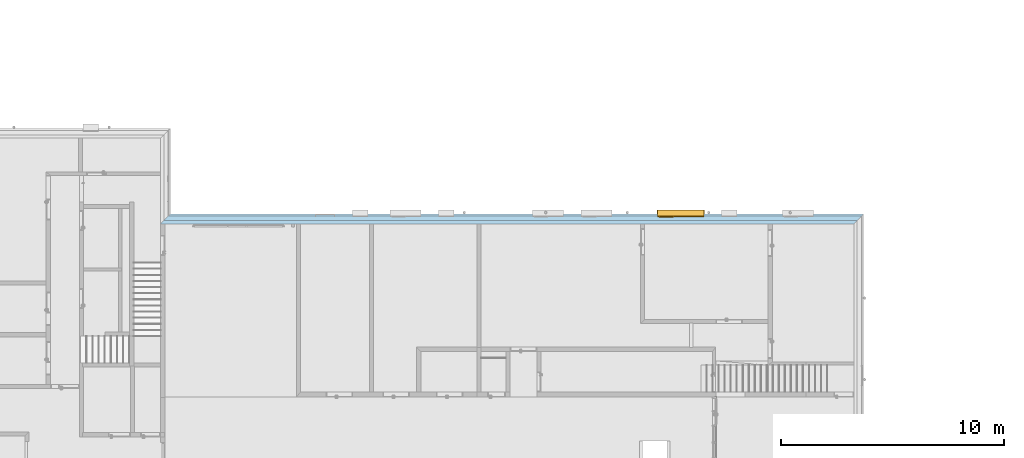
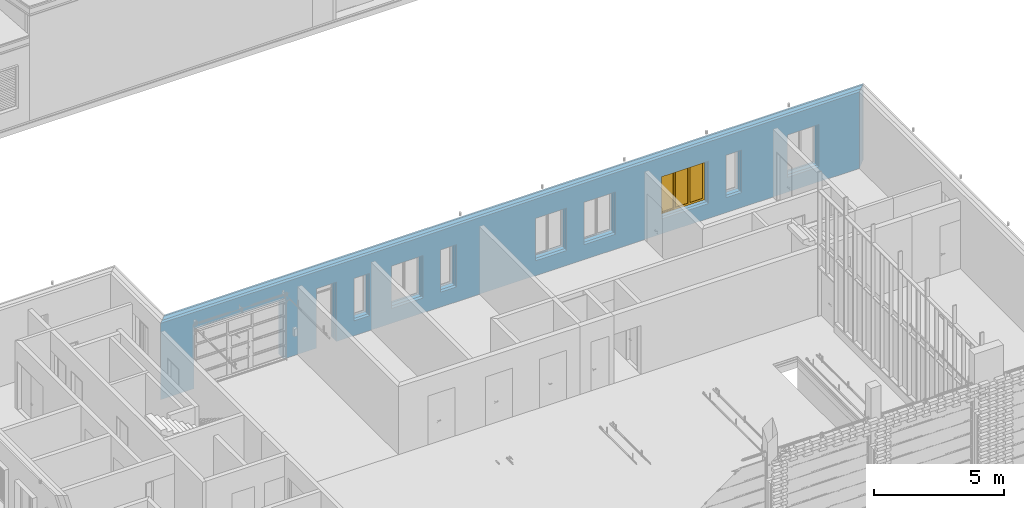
# One storey, part 19 of 62: 1 window, 10 openings, 1 element without a shape of its own, plus 3 elements that do not belong to this part.
"""IFC2X3 building model written with IfcOpenShell, lengths in millimetres."""

from ifc_helpers import new_model, entity, si_unit, converted_unit, derived_unit, money_unit, direction, frame, origin_with_axes, origin_2d_with_axis, place, context, subcontext, project, spatial, polyline, rectangle, outline, extrude, open_shell, faceted_brep, surface_model, source, transform, mapped, material, type_object, element, fill, aggregate, save


model = new_model("IFC2X3")

# Units and contexts
model_context = context("Model", 3, precision=0.01, world=origin_with_axes(), true_north=direction((0.0, 1.0)))
body_context = subcontext(model_context, "Body", "Model", "MODEL_VIEW")
ifc_project = project(units=[si_unit("LENGTHUNIT", "METRE", prefix="MILLI"), si_unit("AREAUNIT", "SQUARE_METRE"), si_unit("VOLUMEUNIT", "CUBIC_METRE"), converted_unit("PLANEANGLEUNIT", "DEGREE", entity("IfcPlaneAngleMeasure", 0.0174532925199), si_unit("PLANEANGLEUNIT", "RADIAN"), dimensions=[0, 0, 0, 0, 0, 0, 0]), si_unit("SOLIDANGLEUNIT", "STERADIAN"), money_unit("EUR"), converted_unit("TIMEUNIT", "Year", entity("IfcTimeMeasure", 31556926.0), si_unit("TIMEUNIT", "SECOND"), dimensions=[0, 0, 1, 0, 0, 0, 0]), si_unit("MASSUNIT", "GRAM", prefix="KILO"), si_unit("THERMODYNAMICTEMPERATUREUNIT", "DEGREE_CELSIUS"), si_unit("LUMINOUSINTENSITYUNIT", "LUMEN"), si_unit("ENERGYUNIT", "JOULE", prefix="MEGA"), derived_unit("THERMALCONDUCTANCEUNIT", [(si_unit("POWERUNIT", "WATT"), 1), (si_unit("LENGTHUNIT", "METRE"), -1), (si_unit("THERMODYNAMICTEMPERATUREUNIT", "KELVIN"), -1)]), derived_unit("SPECIFICHEATCAPACITYUNIT", [(si_unit("ENERGYUNIT", "JOULE"), 1), (si_unit("MASSUNIT", "GRAM", prefix="KILO"), -1), (si_unit("THERMODYNAMICTEMPERATUREUNIT", "KELVIN"), -1)]), derived_unit("MASSDENSITYUNIT", [(si_unit("MASSUNIT", "GRAM", prefix="KILO"), 1), (si_unit("VOLUMEUNIT", "CUBIC_METRE"), -1)])], contexts=[model_context])

# Site, building, storey
site_placement = place(None, origin_with_axes())
site = spatial("IfcSite", under=ifc_project, at=site_placement, Name="KIRDE 14, ELVA", CompositionType="ELEMENT")
building_placement = place(site_placement, origin_with_axes())
building = spatial("IfcBuilding", under=site, at=building_placement, Name="PPA ja Päästeameti ühishoone", CompositionType="ELEMENT")
storey_placement = place(building_placement, origin_with_axes())
storey = spatial("IfcBuildingStorey", under=building, at=storey_placement, Name="Esimene korrus", CompositionType="ELEMENT", Elevation=0.0)

# Window
window_style = type_object("IfcWindowStyle", Name="Triple Window 24", ConstructionType="NOTDEFINED", OperationType="TRIPLE_PANEL_VERTICAL", ParameterTakesPrecedence=False, Sizeable=False)
shared_shape = source(origin_with_axes(), body_context, "Body", "SurfaceModel", [
    faceted_brep([(1050.0, -50.0, 0.0), (1050.0, -130.0, 0.0), (-1050.0, -130.0, 0.0), (-1050.0, -50.0, 0.0), (1050.0, -50.0, 2000.0), (1050.0, -130.0, 2000.0), (-1050.0, -130.0, 2000.0), (1045.0, -130.0, 5.0), (-1045.0, -130.0, 5.0), (-1045.0, -130.0, 1995.0), (1045.0, -130.0, 1995.0), (-1050.0, -50.0, 2000.0), (1045.0, -50.0, 5.0), (1045.0, -50.0, 1995.0), (-1045.0, -50.0, 1995.0), (-1045.0, -50.0, 5.0)], [[[0, 1, 2, 3]], [[4, 5, 1, 0]], [[1, 5, 6, 2], [7, 8, 9, 10]], [[3, 2, 6, 11]], [[0, 3, 11, 4], [12, 13, 14, 15]], [[11, 6, 5, 4]], [[15, 8, 7, 12]], [[14, 9, 8, 15]], [[13, 10, 9, 14]], [[12, 7, 10, 13]]]),
    faceted_brep([(1070.0, -330.0, -20.0), (1045.0, -330.0, 5.0), (1045.0, -130.0, 5.0), (1070.0, -130.0, -20.0), (1070.0, -330.0, 2020.0), (1045.0, -330.0, 1995.0), (1045.0, -130.0, 1995.0), (1070.0, -130.0, 2020.0)], [[[0, 1, 2, 3]], [[0, 4, 5, 1]], [[1, 5, 6, 2]], [[3, 2, 6, 7]], [[4, 0, 3, 7]], [[5, 4, 7, 6]]]),
    faceted_brep([(-1070.0, -330.0, 2020.0), (-1045.0, -330.0, 1995.0), (-1045.0, -130.0, 1995.0), (-1070.0, -130.0, 2020.0), (-1070.0, -330.0, -20.0), (-1045.0, -330.0, 5.0), (-1045.0, -130.0, 5.0), (-1070.0, -130.0, -20.0)], [[[0, 1, 2, 3]], [[0, 4, 5, 1]], [[1, 5, 6, 2]], [[3, 2, 6, 7]], [[4, 0, 3, 7]], [[5, 4, 7, 6]]]),
    faceted_brep([(-1070.0, -330.0, -20.0), (-1045.0, -330.0, 5.0), (-1045.0, -130.0, 5.0), (-1070.0, -130.0, -20.0), (1070.0, -330.0, -20.0), (1045.0, -330.0, 5.0), (1045.0, -130.0, 5.0), (1070.0, -130.0, -20.0)], [[[0, 1, 2, 3]], [[0, 4, 5, 1]], [[1, 5, 6, 2]], [[3, 2, 6, 7]], [[4, 0, 3, 7]], [[5, 4, 7, 6]]]),
    faceted_brep([(1070.0, -330.0, 2020.0), (1045.0, -330.0, 1995.0), (1045.0, -130.0, 1995.0), (1070.0, -130.0, 2020.0), (-1070.0, -330.0, 2020.0), (-1045.0, -330.0, 1995.0), (-1045.0, -130.0, 1995.0), (-1070.0, -130.0, 2020.0)], [[[0, 1, 2, 3]], [[0, 4, 5, 1]], [[1, 5, 6, 2]], [[3, 2, 6, 7]], [[4, 0, 3, 7]], [[5, 4, 7, 6]]]),
    faceted_brep([(985.0, 0.0, 1910.0), (985.0, -25.0, 1910.0), (960.0, -25.0, 1910.0), (960.0, -50.0, 1910.0), (1050.0, -50.0, 1910.0), (1050.0, 0.0, 1910.0), (985.0, 0.0, 90.0), (985.0, -25.0, 90.0), (960.0, -25.0, 90.0), (960.0, -50.0, 90.0), (1050.0, -50.0, 90.0), (1050.0, 0.0, 90.0)], [[[0, 1, 2, 3, 4, 5]], [[1, 0, 6, 7]], [[8, 2, 1, 7]], [[2, 8, 9, 3]], [[4, 3, 9, 10]], [[5, 4, 10, 11]], [[6, 0, 5, 11]], [[7, 6, 11, 10, 9, 8]]]),
    faceted_brep([(346.666666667, -25.0, 1910.0), (321.666666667, -25.0, 1910.0), (321.666666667, 0.0, 1910.0), (256.666666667, 0.0, 1910.0), (256.666666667, -50.0, 1910.0), (346.666666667, -50.0, 1910.0), (346.666666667, -25.0, 90.0), (321.666666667, -25.0, 90.0), (321.666666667, 0.0, 90.0), (256.666666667, 0.0, 90.0), (256.666666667, -50.0, 90.0), (346.666666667, -50.0, 90.0)], [[[0, 1, 2, 3, 4, 5]], [[1, 0, 6, 7]], [[8, 2, 1, 7]], [[2, 8, 9, 3]], [[9, 10, 4, 3]], [[5, 4, 10, 11]], [[6, 0, 5, 11]], [[7, 6, 11, 10, 9, 8]]]),
    faceted_brep([(346.666666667, -25.0, 90.0), (321.666666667, -25.0, 90.0), (321.666666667, 0.0, 90.0), (256.666666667, 0.0, 90.0), (256.666666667, -50.0, 90.0), (346.666666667, -50.0, 90.0), (960.0, -25.0, 90.0), (985.0, -25.0, 90.0), (985.0, -25.0, 65.0), (321.666666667, -25.0, 65.0), (321.666666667, 0.0, 65.0), (985.0, 0.0, 65.0), (985.0, 0.0, 90.0), (1050.0, 0.0, 90.0), (1050.0, 0.0, 0.0), (-1050.0, 0.0, 0.0), (-1050.0, 0.0, 90.0), (-960.0, 0.0, 90.0), (-396.666666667, 0.0, 90.0), (-306.666666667, 0.0, 90.0), (-306.666666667, -50.0, 90.0), (1050.0, -50.0, 90.0), (960.0, -50.0, 90.0), (-396.666666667, -50.0, 90.0), (-960.0, -50.0, 90.0), (-1050.0, -50.0, 90.0), (-1050.0, -50.0, 0.0), (1050.0, -50.0, 0.0)], [[[0, 1, 2, 3, 4, 5]], [[1, 0, 6, 7, 8, 9]], [[10, 2, 1, 9]], [[11, 12, 13, 14, 15, 16, 17, 18, 19, 3, 2, 10]], [[19, 20, 4, 3]], [[21, 22, 5, 4, 20, 23, 24, 25, 26, 27]], [[6, 0, 5, 22]], [[7, 6, 22, 21, 13, 12]], [[7, 12, 11, 8]], [[11, 10, 9, 8]], [[13, 21, 27, 14]], [[14, 27, 26, 15]], [[15, 26, 25, 16]], [[16, 25, 24, 17]], [[17, 24, 23, 18]], [[18, 23, 20, 19]]]),
    faceted_brep([(985.0, 0.0, 1910.0), (985.0, 0.0, 1935.0), (321.666666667, 0.0, 1935.0), (321.666666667, 0.0, 1910.0), (256.666666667, 0.0, 1910.0), (-306.666666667, 0.0, 1910.0), (-396.666666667, 0.0, 1910.0), (-960.0, 0.0, 1910.0), (-1050.0, 0.0, 1910.0), (-1050.0, 0.0, 2000.0), (1050.0, 0.0, 2000.0), (1050.0, 0.0, 1910.0), (985.0, -25.0, 1910.0), (985.0, -25.0, 1935.0), (321.666666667, -25.0, 1935.0), (321.666666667, -25.0, 1910.0), (346.666666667, -25.0, 1910.0), (346.666666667, -50.0, 1910.0), (256.666666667, -50.0, 1910.0), (-306.666666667, -50.0, 1910.0), (-396.666666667, -50.0, 1910.0), (-960.0, -50.0, 1910.0), (-1050.0, -50.0, 1910.0), (-1050.0, -50.0, 2000.0), (1050.0, -50.0, 2000.0), (1050.0, -50.0, 1910.0), (960.0, -50.0, 1910.0), (960.0, -25.0, 1910.0)], [[[0, 1, 2, 3, 4, 5, 6, 7, 8, 9, 10, 11]], [[1, 0, 12, 13]], [[2, 1, 13, 14]], [[3, 2, 14, 15]], [[15, 16, 17, 18, 4, 3]], [[4, 18, 19, 5]], [[5, 19, 20, 6]], [[6, 20, 21, 7]], [[7, 21, 22, 8]], [[8, 22, 23, 9]], [[9, 23, 24, 10]], [[10, 24, 25, 11]], [[12, 0, 11, 25, 26, 27]], [[16, 15, 14, 13, 12, 27]], [[16, 27, 26, 17]], [[18, 17, 26, 25, 24, 23, 22, 21, 20, 19]]]),
    faceted_brep([(-960.0, -50.0, 90.0), (-1050.0, -50.0, 90.0), (-1050.0, 0.0, 90.0), (-960.0, 0.0, 90.0), (-960.0, -50.0, 1910.0), (-1050.0, -50.0, 1910.0), (-1050.0, 0.0, 1910.0), (-960.0, 0.0, 1910.0)], [[[0, 1, 2, 3]], [[0, 4, 5, 1]], [[1, 5, 6, 2]], [[3, 2, 6, 7]], [[4, 0, 3, 7]], [[5, 4, 7, 6]]]),
    faceted_brep([(-306.666666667, -50.0, 90.0), (-396.666666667, -50.0, 90.0), (-396.666666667, 0.0, 90.0), (-306.666666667, 0.0, 90.0), (-306.666666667, -50.0, 1910.0), (-396.666666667, -50.0, 1910.0), (-396.666666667, 0.0, 1910.0), (-306.666666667, 0.0, 1910.0)], [[[0, 1, 2, 3]], [[0, 4, 5, 1]], [[1, 5, 6, 2]], [[3, 2, 6, 7]], [[4, 0, 3, 7]], [[5, 4, 7, 6]]]),
    faceted_brep([(935.0, -25.0, 1885.0), (985.0, -25.0, 1885.0), (985.0, 25.0, 1885.0), (935.0, 25.0, 1885.0), (935.0, -25.0, 115.0), (985.0, -25.0, 115.0), (985.0, 25.0, 115.0), (935.0, 25.0, 115.0)], [[[0, 1, 2, 3]], [[0, 4, 5, 1]], [[1, 5, 6, 2]], [[3, 2, 6, 7]], [[4, 0, 3, 7]], [[5, 4, 7, 6]]]),
    faceted_brep([(371.666666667, -25.0, 115.0), (321.666666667, -25.0, 115.0), (321.666666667, 25.0, 115.0), (371.666666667, 25.0, 115.0), (371.666666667, -25.0, 1885.0), (321.666666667, -25.0, 1885.0), (321.666666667, 25.0, 1885.0), (371.666666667, 25.0, 1885.0)], [[[0, 1, 2, 3]], [[0, 4, 5, 1]], [[1, 5, 6, 2]], [[3, 2, 6, 7]], [[4, 0, 3, 7]], [[5, 4, 7, 6]]]),
    faceted_brep([(321.666666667, -25.0, 65.0), (321.666666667, -25.0, 115.0), (321.666666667, 25.0, 115.0), (321.666666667, 25.0, 65.0), (985.0, -25.0, 65.0), (985.0, -25.0, 115.0), (935.0, -25.0, 115.0), (371.666666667, -25.0, 115.0), (371.666666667, 25.0, 115.0), (935.0, 25.0, 115.0), (985.0, 25.0, 115.0), (985.0, 25.0, 65.0)], [[[0, 1, 2, 3]], [[0, 4, 5, 6, 7, 1]], [[1, 7, 8, 2]], [[3, 2, 8, 9, 10, 11]], [[4, 0, 3, 11]], [[5, 4, 11, 10]], [[6, 5, 10, 9]], [[7, 6, 9, 8]]]),
    faceted_brep([(985.0, -25.0, 1935.0), (985.0, -25.0, 1885.0), (985.0, 25.0, 1885.0), (985.0, 25.0, 1935.0), (321.666666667, -25.0, 1935.0), (321.666666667, -25.0, 1885.0), (371.666666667, -25.0, 1885.0), (935.0, -25.0, 1885.0), (935.0, 25.0, 1885.0), (371.666666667, 25.0, 1885.0), (321.666666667, 25.0, 1885.0), (321.666666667, 25.0, 1935.0)], [[[0, 1, 2, 3]], [[0, 4, 5, 6, 7, 1]], [[1, 7, 8, 2]], [[3, 2, 8, 9, 10, 11]], [[4, 0, 3, 11]], [[5, 4, 11, 10]], [[6, 5, 10, 9]], [[7, 6, 9, 8]]]),
    surface_model("IfcShellBasedSurfaceModel", [(935.0, -10.0, 115.0), (935.0, -10.0, 1885.0), (371.666666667, -10.0, 1885.0), (371.666666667, -10.0, 115.0)], [open_shell([[[0, 1, 2, 3]]])]),
    surface_model("IfcShellBasedSurfaceModel", [(935.0, 10.0, 115.0), (371.666666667, 10.0, 115.0), (371.666666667, 10.0, 1885.0), (935.0, 10.0, 1885.0)], [open_shell([[[0, 1, 2, 3]]])]),
    surface_model("IfcShellBasedSurfaceModel", [(256.666666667, -35.0, 90.0), (256.666666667, -35.0, 1910.0), (-306.666666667, -35.0, 1910.0), (-306.666666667, -35.0, 90.0)], [open_shell([[[0, 1, 2, 3]]])]),
    surface_model("IfcShellBasedSurfaceModel", [(256.666666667, -15.0, 90.0), (-306.666666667, -15.0, 90.0), (-306.666666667, -15.0, 1910.0), (256.666666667, -15.0, 1910.0)], [open_shell([[[0, 1, 2, 3]]])]),
    surface_model("IfcShellBasedSurfaceModel", [(-396.666666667, -35.0, 90.0), (-396.666666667, -35.0, 1910.0), (-960.0, -35.0, 1910.0), (-960.0, -35.0, 90.0)], [open_shell([[[0, 1, 2, 3]]])]),
    surface_model("IfcShellBasedSurfaceModel", [(-396.666666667, -15.0, 90.0), (-960.0, -15.0, 90.0), (-960.0, -15.0, 1910.0), (-396.666666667, -15.0, 1910.0)], [open_shell([[[0, 1, 2, 3]]])]),
])
wall_placement = place(storey_placement, frame((8900.00012331, 20749.5916292, 0.0), z_axis=(0.0, 0.0, 1.0), x_axis=(1.0, 3.88740030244e-10, 0.0)))
opening_2_placement = place(wall_placement, frame((23369.6518059, 0.0, 700.0), z_axis=(0.0, 0.0, 1.0), x_axis=(1.0, 0.0, 0.0)))
window_placement = place(opening_2_placement, frame((1050.0, 0.0, 0.0), z_axis=(0.0, 0.0, 1.0), x_axis=(-1.0, 0.0, 0.0)))
window = element("IfcWindow", 1, at=window_placement, inside=storey, type_object=window_style, Name="A-09", ObjectType="WINDOW", OverallHeight=2000.0, OverallWidth=2100.0, context=body_context, shape_type="MappedRepresentation", body=[
    mapped(shared_shape, transform((1049.99999988, -299.999990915, 0.0))),
])

# Wall, openings
wall_type = type_object("IfcWallType", Name="VS-01 430", PredefinedType="NOTDEFINED")
wall = element("IfcWall", 2, at=wall_placement, inside=storey, type_object=wall_type, Name="VS-01")
opening_1_placement = place(wall_placement, frame((17399.6518059, 0.0, 700.0), z_axis=(0.0, 0.0, 1.0), x_axis=(1.0, 0.0, 0.0)))
element("IfcOpeningElement", 3, at=opening_1_placement, cuts=wall, Name="A-05", context=body_context, shape_type="SweptSolid", body=[
    extrude(rectangle(XDim=1400.0, YDim=2000.0, at=origin_2d_with_axis()), frame((1.36058275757e-07, 349.999993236, 1000.0), z_axis=(-3.88740030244e-10, -1.0, 0.0), x_axis=(1.0, -3.88740152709e-10, 0.0)), (0.0, 0.0, 1.0), 780.0),
    extrude(rectangle(XDim=1400.0, YDim=2000.0, at=origin_2d_with_axis()), frame((1.36058275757e-07, 349.999993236, 1000.0), z_axis=(3.88740030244e-10, 1.0, 0.0), x_axis=(1.0, -3.88740152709e-10, 0.0)), (0.0, 0.0, 1.0), 510.0),
    extrude(rectangle(XDim=1400.0, YDim=2000.0, at=origin_2d_with_axis()), frame((1.67155178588e-07, 429.999993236, 1000.0), z_axis=(3.88740030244e-10, 1.0, 0.0), x_axis=(1.0, -3.88740152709e-10, 0.0)), (0.0, 0.0, 1.0), 510.0),
])
opening_2 = element("IfcOpeningElement", 4, at=opening_2_placement, cuts=wall, Name="A-09", context=body_context, shape_type="SweptSolid", body=[
    extrude(rectangle(XDim=2100.0, YDim=2000.0, at=origin_2d_with_axis()), frame((1.36061828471e-07, 349.999990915, 1000.0), z_axis=(-3.88740030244e-10, -1.0, 0.0), x_axis=(1.0, -3.88740152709e-10, 0.0)), (0.0, 0.0, 1.0), 780.0),
    extrude(rectangle(XDim=2100.0, YDim=2000.0, at=origin_2d_with_axis()), frame((1.36061828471e-07, 349.999990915, 1000.0), z_axis=(3.88740030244e-10, 1.0, 0.0), x_axis=(1.0, -3.88740152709e-10, 0.0)), (0.0, 0.0, 1.0), 510.0),
    extrude(rectangle(XDim=2140.0, YDim=2040.0, at=origin_2d_with_axis()), frame((1.67162284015e-07, 429.999990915, 1000.0), z_axis=(3.88740030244e-10, 1.0, 0.0), x_axis=(1.0, -3.88740152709e-10, 0.0)), (0.0, 0.0, 1.0), 510.0),
])

fill(opening_2, window)

# Opening
opening_3_placement = place(wall_placement, frame((28639.6518059, 0.0, 700.0), z_axis=(0.0, 0.0, 1.0), x_axis=(1.0, 0.0, 0.0)))
element("IfcOpeningElement", 5, at=opening_3_placement, cuts=wall, Name="A-05", context=body_context, shape_type="SweptSolid", body=[
    extrude(rectangle(XDim=1400.0, YDim=2000.0, at=origin_2d_with_axis()), frame((1.36061828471e-07, 349.999988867, 1000.0), z_axis=(-3.88740030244e-10, -1.0, 0.0), x_axis=(1.0, -3.88740152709e-10, 0.0)), (0.0, 0.0, 1.0), 780.0),
    extrude(rectangle(XDim=1400.0, YDim=2000.0, at=origin_2d_with_axis()), frame((1.36061828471e-07, 349.999988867, 1000.0), z_axis=(3.88740030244e-10, 1.0, 0.0), x_axis=(1.0, -3.88740152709e-10, 0.0)), (0.0, 0.0, 1.0), 510.0),
    extrude(rectangle(XDim=1400.0, YDim=2000.0, at=origin_2d_with_axis()), frame((1.67162284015e-07, 429.999988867, 1000.0), z_axis=(3.88740030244e-10, 1.0, 0.0), x_axis=(1.0, -3.88740152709e-10, 0.0)), (0.0, 0.0, 1.0), 510.0),
])

opening_4_placement = place(wall_placement, frame((19579.6518059, 0.0, 700.0), z_axis=(0.0, 0.0, 1.0), x_axis=(1.0, 0.0, 0.0)))
element("IfcOpeningElement", 6, at=opening_4_placement, cuts=wall, Name="A-05", context=body_context, shape_type="SweptSolid", body=[
    extrude(rectangle(XDim=1400.0, YDim=2000.0, at=origin_2d_with_axis()), frame((1.36058275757e-07, 349.999992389, 1000.0), z_axis=(-3.88740030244e-10, -1.0, 0.0), x_axis=(1.0, -3.88740152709e-10, 0.0)), (0.0, 0.0, 1.0), 780.0),
    extrude(rectangle(XDim=1400.0, YDim=2000.0, at=origin_2d_with_axis()), frame((1.36058275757e-07, 349.999992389, 1000.0), z_axis=(3.88740030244e-10, 1.0, 0.0), x_axis=(1.0, -3.88740152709e-10, 0.0)), (0.0, 0.0, 1.0), 510.0),
    extrude(rectangle(XDim=1400.0, YDim=2000.0, at=origin_2d_with_axis()), frame((1.67155178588e-07, 429.999992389, 1000.0), z_axis=(3.88740030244e-10, 1.0, 0.0), x_axis=(1.0, -3.88740152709e-10, 0.0)), (0.0, 0.0, 1.0), 510.0),
])

opening_5_placement = place(wall_placement, frame((25549.6518059, 0.0, 700.0), z_axis=(0.0, 0.0, 1.0), x_axis=(1.0, 0.0, 0.0)))
element("IfcOpeningElement", 7, at=opening_5_placement, cuts=wall, Name="A-01", context=body_context, shape_type="SweptSolid", body=[
    extrude(rectangle(XDim=700.0, YDim=2000.0, at=origin_2d_with_axis()), frame((1.36061828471e-07, 349.999990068, 1000.0), z_axis=(-3.88740030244e-10, -1.0, 0.0), x_axis=(1.0, -3.88740152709e-10, 0.0)), (0.0, 0.0, 1.0), 780.0),
    extrude(rectangle(XDim=700.0, YDim=2000.0, at=origin_2d_with_axis()), frame((1.36061828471e-07, 349.999990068, 1000.0), z_axis=(3.88740030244e-10, 1.0, 0.0), x_axis=(1.0, -3.88740152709e-10, 0.0)), (0.0, 0.0, 1.0), 510.0),
    extrude(rectangle(XDim=700.0, YDim=2000.0, at=origin_2d_with_axis()), frame((1.67162284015e-07, 429.999990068, 1000.0), z_axis=(3.88740030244e-10, 1.0, 0.0), x_axis=(1.0, -3.88740152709e-10, 0.0)), (0.0, 0.0, 1.0), 510.0),
])

opening_6_placement = place(wall_placement, frame((10999.651806, 0.0, 700.0), z_axis=(0.0, 0.0, 1.0), x_axis=(1.0, 0.0, 0.0)))
element("IfcOpeningElement", 8, at=opening_6_placement, cuts=wall, Name="A-05", context=body_context, shape_type="SweptSolid", body=[
    extrude(rectangle(XDim=1400.0, YDim=2000.0, at=origin_2d_with_axis()), frame((1.36058275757e-07, 349.999995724, 1000.0), z_axis=(-3.88740030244e-10, -1.0, 0.0), x_axis=(1.0, -3.88740152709e-10, 0.0)), (0.0, 0.0, 1.0), 780.0),
    extrude(rectangle(XDim=1400.0, YDim=2000.0, at=origin_2d_with_axis()), frame((1.36058275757e-07, 349.999995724, 1000.0), z_axis=(3.88740030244e-10, 1.0, 0.0), x_axis=(1.0, -3.88740152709e-10, 0.0)), (0.0, 0.0, 1.0), 510.0),
    extrude(rectangle(XDim=1400.0, YDim=2000.0, at=origin_2d_with_axis()), frame((1.67155178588e-07, 429.999995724, 1000.0), z_axis=(3.88740030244e-10, 1.0, 0.0), x_axis=(1.0, -3.88740152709e-10, 0.0)), (0.0, 0.0, 1.0), 510.0),
])

opening_7_placement = place(wall_placement, frame((12829.6518059, 0.0, 700.0), z_axis=(0.0, 0.0, 1.0), x_axis=(1.0, 0.0, 0.0)))
element("IfcOpeningElement", 9, at=opening_7_placement, cuts=wall, Name="A-01", context=body_context, shape_type="SweptSolid", body=[
    extrude(rectangle(XDim=700.0, YDim=2000.0, at=origin_2d_with_axis()), frame((1.36058275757e-07, 349.999995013, 1000.0), z_axis=(-3.88740030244e-10, -1.0, 0.0), x_axis=(1.0, -3.88740152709e-10, 0.0)), (0.0, 0.0, 1.0), 780.0),
    extrude(rectangle(XDim=700.0, YDim=2000.0, at=origin_2d_with_axis()), frame((1.36058275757e-07, 349.999995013, 1000.0), z_axis=(3.88740030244e-10, 1.0, 0.0), x_axis=(1.0, -3.88740152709e-10, 0.0)), (0.0, 0.0, 1.0), 510.0),
    extrude(rectangle(XDim=700.0, YDim=2000.0, at=origin_2d_with_axis()), frame((1.67155178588e-07, 429.999995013, 1000.0), z_axis=(3.88740030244e-10, 1.0, 0.0), x_axis=(1.0, -3.88740152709e-10, 0.0)), (0.0, 0.0, 1.0), 510.0),
])

opening_8_placement = place(wall_placement, frame((8972.13083165, 0.0, 700.0), z_axis=(0.0, 0.0, 1.0), x_axis=(1.0, 0.0, 0.0)))
element("IfcOpeningElement", 10, at=opening_8_placement, cuts=wall, Name="A-01", context=body_context, shape_type="SweptSolid", body=[
    extrude(rectangle(XDim=700.0, YDim=2000.0, at=origin_2d_with_axis()), frame((1.36058275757e-07, 349.999996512, 1000.0), z_axis=(-3.88740030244e-10, -1.0, 0.0), x_axis=(1.0, -3.88740152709e-10, 0.0)), (0.0, 0.0, 1.0), 780.0),
    extrude(rectangle(XDim=700.0, YDim=2000.0, at=origin_2d_with_axis()), frame((1.36058275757e-07, 349.999996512, 1000.0), z_axis=(3.88740030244e-10, 1.0, 0.0), x_axis=(1.0, -3.88740152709e-10, 0.0)), (0.0, 0.0, 1.0), 510.0),
    extrude(rectangle(XDim=700.0, YDim=2000.0, at=origin_2d_with_axis()), frame((1.67155178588e-07, 429.999996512, 1000.0), z_axis=(3.88740030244e-10, 1.0, 0.0), x_axis=(1.0, -3.88740152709e-10, 0.0)), (0.0, 0.0, 1.0), 510.0),
])

opening_9_placement = place(wall_placement, frame((7392.13083172, 0.0, 0.0), z_axis=(0.0, 0.0, 1.0), x_axis=(1.0, 0.0, 0.0)))
element("IfcOpeningElement", 11, at=opening_9_placement, cuts=wall, Name="VU-03", context=body_context, shape_type="SweptSolid", body=[
    extrude(rectangle(XDim=900.0, YDim=2800.0, at=origin_2d_with_axis()), frame((-1.67158731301e-07, -430.0, 1400.0), z_axis=(-3.88740030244e-10, -1.0, 0.0), x_axis=(-1.0, 3.88740030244e-10, 0.0)), (0.0, 0.0, -1.0), 1290.0),
])

opening_10_placement = place(wall_placement, frame((3500.00001494, 0.0, 0.0), z_axis=(0.0, 0.0, 1.0), x_axis=(1.0, 0.0, 0.0)))
element("IfcOpeningElement", 12, at=opening_10_placement, cuts=wall, Name="GU-03", context=body_context, shape_type="SweptSolid", body=[
    extrude(outline(polyline([(2000.0, 0.0), (2000.0, 2800.0), (-2000.0, 2800.0), (-2000.0, 0.0), (2000.0, 0.0)])), frame((-1.67158731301e-07, -430.0, 0.0), z_axis=(3.88740030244e-10, 1.0, 0.0), x_axis=(-1.0, 3.88740152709e-10, 0.0)), (0.0, 0.0, 1.0), 860.0),
])

# Building element part
ifc_material_1 = material(Name="Raudbetoon Paneelid (2)")
building_element_part_1_placement = place(wall_placement, origin_with_axes())
building_element_part_1 = element("IfcBuildingElementPart", 13, at=building_element_part_1_placement, material=ifc_material_1, Name="Raudbetoon Paneelid (2)", context=body_context, shape_type="SweptSolid", body=[
    extrude(outline(polyline([(0.0, 0.0), (31144.7047591, 0.0), (31294.7047592, 150.0), (150.000000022, 150.0), (0.0, 0.0)])), origin_with_axes(), (0.0, 0.0, 1.0), 3600.0),
])

ifc_material_2 = material(Name="Vahtpolüstüreen (4)")
building_element_part_2_placement = place(wall_placement, origin_with_axes())
building_element_part_2 = element("IfcBuildingElementPart", 14, at=building_element_part_2_placement, material=ifc_material_2, Name="Vahtpolüstüreen (4)", context=body_context, shape_type="SweptSolid", body=[
    extrude(outline(polyline([(150.000000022, 150.0), (31294.7047592, 150.0), (31494.7047593, 350.0), (350.000000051, 350.0), (150.000000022, 150.0)])), origin_with_axes(), (0.0, 0.0, 1.0), 3600.0),
])

building_element_part_3_placement = place(wall_placement, origin_with_axes())
building_element_part_3 = element("IfcBuildingElementPart", 15, at=building_element_part_3_placement, material=ifc_material_1, Name="Raudbetoon Paneelid (2)", context=body_context, shape_type="SweptSolid", body=[
    extrude(outline(polyline([(350.000000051, 350.0), (31494.7047593, 350.0), (31574.7047593, 430.0), (430.000000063, 430.0), (350.000000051, 350.0)])), origin_with_axes(), (0.0, 0.0, 1.0), 3600.0),
])

aggregate(wall, [building_element_part_1, building_element_part_2, building_element_part_3])

save(model, "model.ifc")
